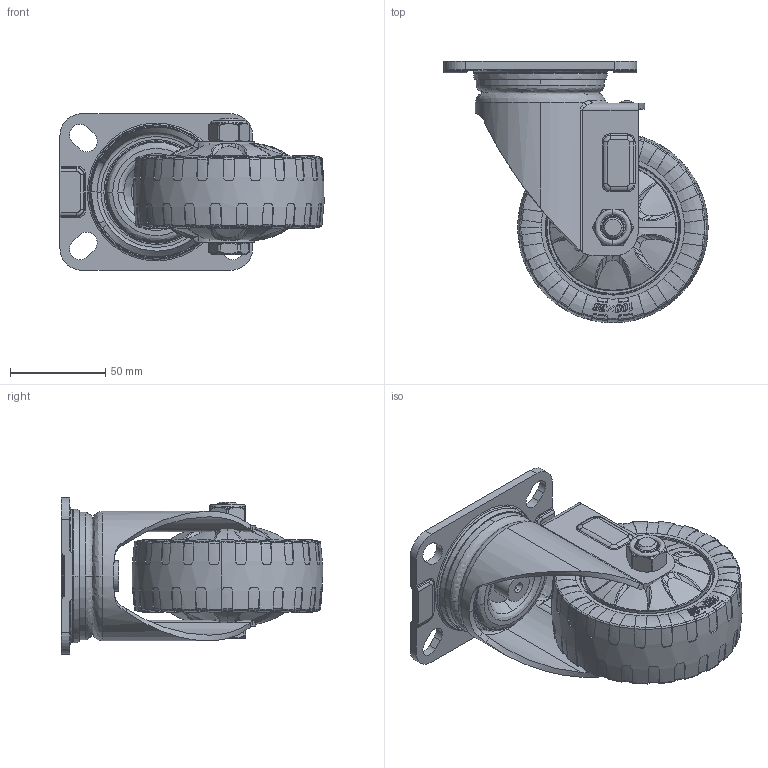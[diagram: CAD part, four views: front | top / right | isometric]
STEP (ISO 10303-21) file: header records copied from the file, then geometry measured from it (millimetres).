
FILE_DESCRIPTION (( 'STEP AP214' ), '1' );
FILE_NAME ('J05S-01-100-352.STEP', '2025-10-01T10:10:54', ( '' ), ( '' ), 'SwSTEP 2.0', 'SolidWorks 2022', '' );
FILE_SCHEMA (( 'AUTOMOTIVE_DESIGN' ));
Length unit declared in the file: millimetre
Products named in the file (1): J05S-01-100-352
Bounding box: 138.36 x 136.86 x 82 mm (x, y, z)
Volume: 323659.1 mm3; surface area: 193193.8 mm2
Topology: 13 solids, 13 shells, 5016 faces, 13572 edges, 8146 vertices
Faces by surface type: bspline 2243, cylinder 1252, plane 1241, cone 280
Entity records: 322604 total; most frequent: CARTESIAN_POINT 168943, ORIENTED_EDGE 25980, EDGE_CURVE 12990, DIRECTION 12641, VERTEX_POINT 8146, B_SPLINE_CURVE_WITH_KNOTS 7304, EDGE_LOOP 5196, AXIS2_PLACEMENT_3D 5106
